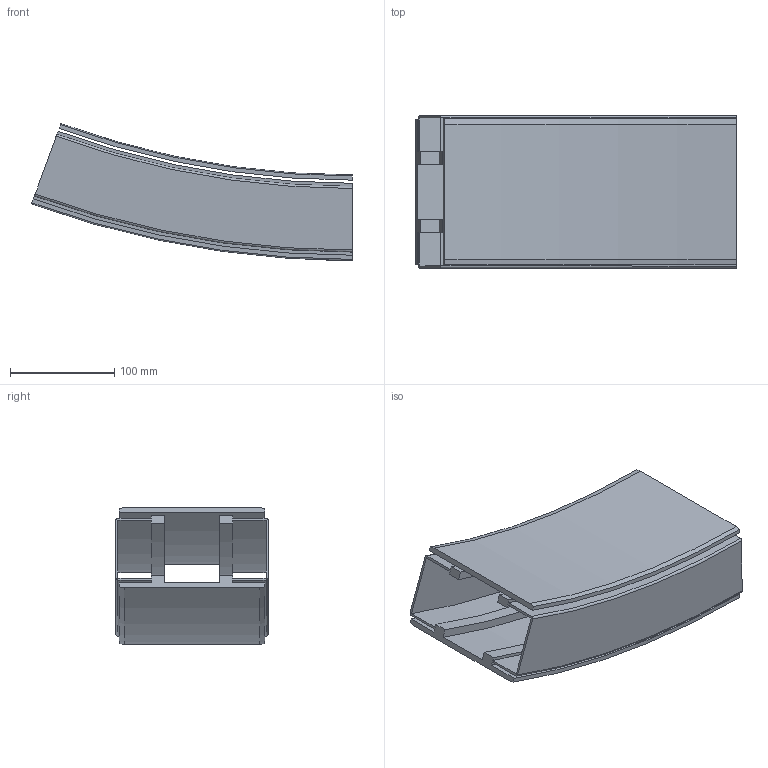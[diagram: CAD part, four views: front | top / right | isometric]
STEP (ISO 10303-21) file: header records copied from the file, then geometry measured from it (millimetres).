
FILE_DESCRIPTION(/* description */ ('VERTIKALKURVA S540 R860'),/* implementation_level */ '2;1');
FILE_NAME(/* name */ '540-5695+140-2000-NER-01.stp',/* time_stamp */ '2022-09-21T11:24:01+02:00',/* author */ ('Mathias.Dore'),/* organization */ ('CARRYLINE'),/* preprocessor_version */ 'ST-DEVELOPER v19.2',/* originating_system */ 'Autodesk Inventor 2023',/* authorisation */ '');
FILE_SCHEMA (('AUTOMOTIVE_DESIGN { 1 0 10303 214 3 1 1 }'));
Length unit declared in the file: millimetre
Products named in the file (1): 540-5695+140-2000-NER-01
Bounding box: 307.65 x 146 x 131.3 mm (x, y, z)
Volume: 688090.1 mm3; surface area: 360015.8 mm2
Topology: 2 solids, 2 shells, 87 faces, 234 edges, 156 vertices
Faces by surface type: plane 40, cylinder 25, bspline 14, cone 4, torus 4
Entity records: 7369 total; most frequent: CARTESIAN_POINT 5170, ORIENTED_EDGE 468, DIRECTION 408, EDGE_CURVE 234, VERTEX_POINT 156, AXIS2_PLACEMENT_3D 141, LINE 126, VECTOR 126
